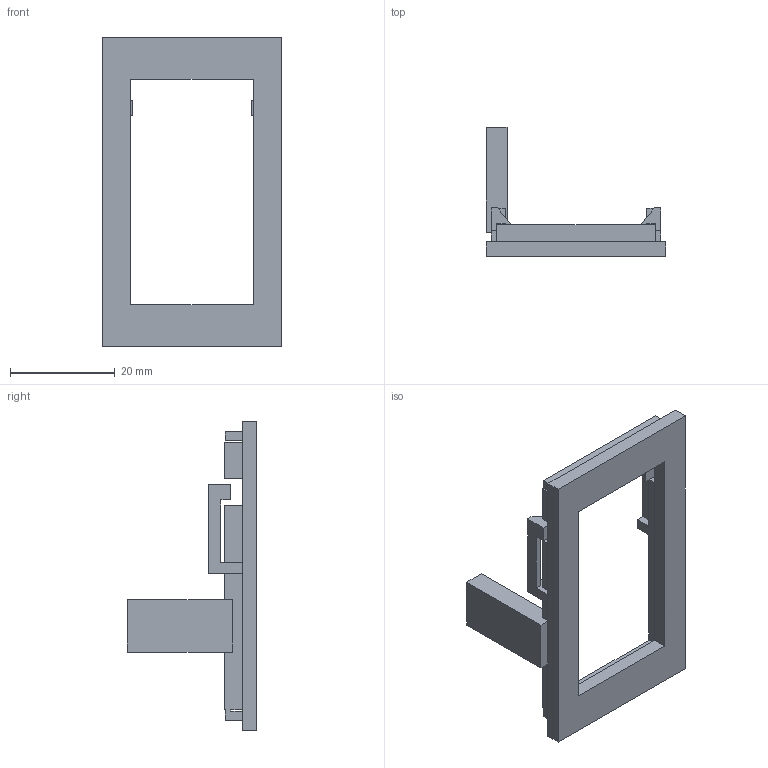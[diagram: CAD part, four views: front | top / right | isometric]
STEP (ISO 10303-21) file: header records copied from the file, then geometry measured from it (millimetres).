
FILE_DESCRIPTION(('Open CASCADE Model'),'2;1');
FILE_NAME('Open CASCADE Shape Model','2026-11-05T11:12:39',('Author'),( 'Open CASCADE'),'Open CASCADE STEP processor 7.8','Open CASCADE 7.8' ,'Unknown');
FILE_SCHEMA(('AUTOMOTIVE_DESIGN { 1 0 10303 214 1 1 1 1 }'));
Length unit declared in the file: millimetre
Products named in the file (1): Open CASCADE STEP translator 7.8 1
Bounding box: 34.3 x 24.6 x 59 mm (x, y, z)
Volume: 4666.3 mm3; surface area: 5055.5 mm2
Topology: 1 solids, 1 shells, 74 faces, 208 edges, 138 vertices
Faces by surface type: plane 74
Entity records: 4925 total; most frequent: CARTESIAN_POINT 974, DIRECTION 637, LINE 487, VECTOR 487, ORIENTED_EDGE 416, PCURVE 416, DEFINITIONAL_REPRESENTATION 416, EDGE_CURVE 208
